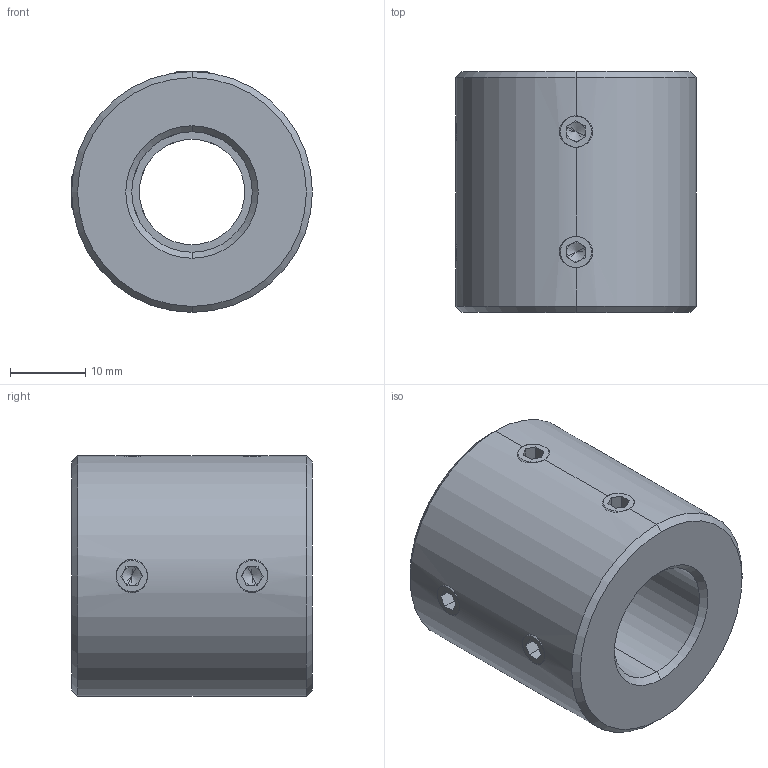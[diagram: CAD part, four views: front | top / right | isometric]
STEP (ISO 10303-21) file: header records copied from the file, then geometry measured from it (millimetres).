
FILE_DESCRIPTION (( 'STEP AP214' ), '1' );
FILE_NAME ('LL-D-D32L32-14-16½¨Ä£.STEP', '2022-07-22T11:34:45', ( '' ), ( '' ), 'SwSTEP 2.0', 'SolidWorks 2022', '' );
FILE_SCHEMA (( 'AUTOMOTIVE_DESIGN' ));
Length unit declared in the file: millimetre
Products named in the file (1): LL-D-D32L32-14-16膘耀
Bounding box: 32 x 32 x 32 mm (x, y, z)
Volume: 19880.5 mm3; surface area: 6020.8 mm2
Topology: 1 solids, 1 shells, 113 faces, 286 edges, 176 vertices
Faces by surface type: plane 59, cone 32, cylinder 22
Entity records: 3754 total; most frequent: CARTESIAN_POINT 1044, DIRECTION 558, ORIENTED_EDGE 556, EDGE_CURVE 278, AXIS2_PLACEMENT_3D 206, VERTEX_POINT 176, VECTOR 146, LINE 146
